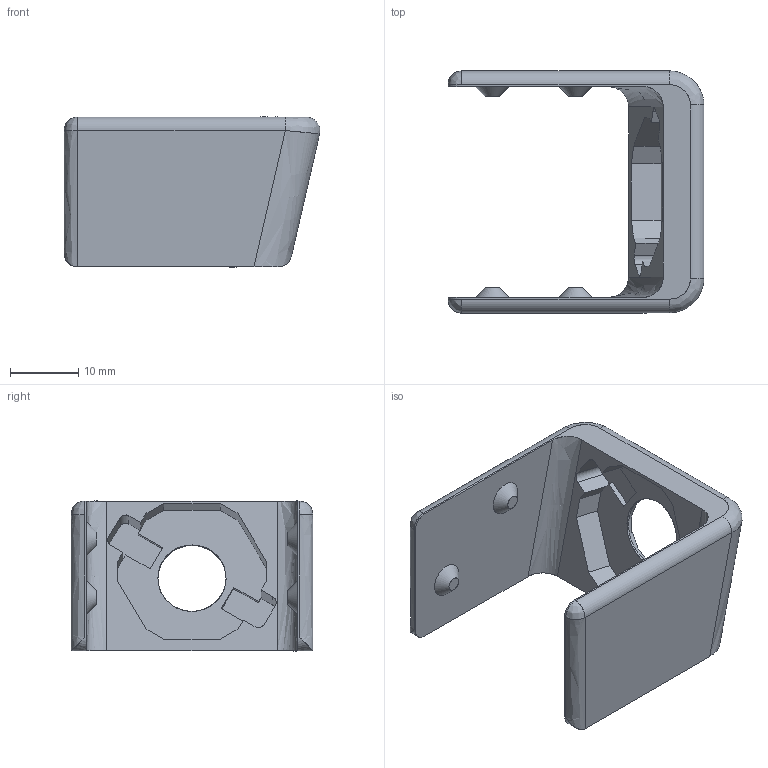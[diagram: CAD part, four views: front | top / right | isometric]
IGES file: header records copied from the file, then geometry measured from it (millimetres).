
Global section: file name: C:\Users\gehrichcr\Documents\1 Drive Backup\Practice\Inspire\V1.5\IGES\LED Clip V2.igs; native system: NX V8.5; preprocessor: SIEMENS PLM Software NX 8.5; date: 20150608.124222; units: millimetre
Bounding box: 37.56 x 35.5 x 22.02 mm (x, y, z)
Surface area: 5118.8 mm2 (no closed solid volume)
Topology: 0 solids, 0 shells, 75 faces, 483 edges, 474 vertices
Faces by surface type: bspline 75
